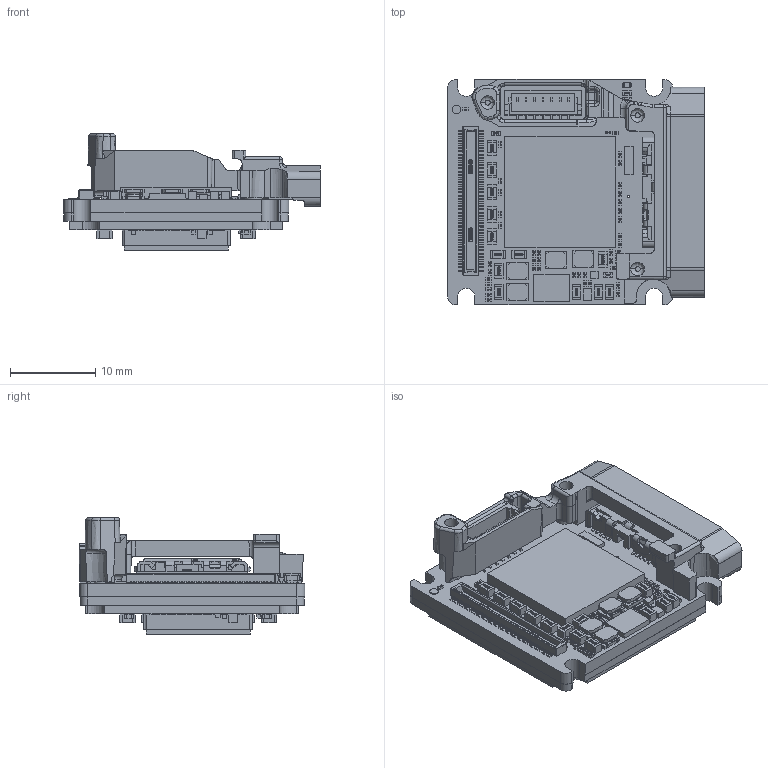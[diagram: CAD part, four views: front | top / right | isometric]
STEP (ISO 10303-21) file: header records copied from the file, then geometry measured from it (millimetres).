
FILE_DESCRIPTION (( 'STEP AP214' ), '1' );
FILE_NAME ('Alvium-USB90-Bare-Board-E2VEV76Cx6x.STEP', '2022-10-24T11:00:33', ( '' ), ( '' ), 'SwSTEP 2.0', 'SolidWorks 2021', '' );
FILE_SCHEMA (( 'AUTOMOTIVE_DESIGN' ));
Length unit declared in the file: millimetre
Products named in the file (1): Alvium-USB90-Bare-Board-E2VEV76Cx6x
Bounding box: 30.1 x 26.45 x 13.64 mm (x, y, z)
Volume: 3670.3 mm3; surface area: 5434.8 mm2
Topology: 123 solids, 123 shells, 8393 faces, 21774 edges, 14125 vertices
Faces by surface type: plane 4421, bspline 3012, cylinder 866, cone 38, torus 32, sphere 24
Entity records: 517224 total; most frequent: CARTESIAN_POINT 238945, ORIENTED_EDGE 43502, DIRECTION 27973, EDGE_CURVE 21751, VERTEX_POINT 14125, LINE 13741, VECTOR 13741, EDGE_LOOP 8958
